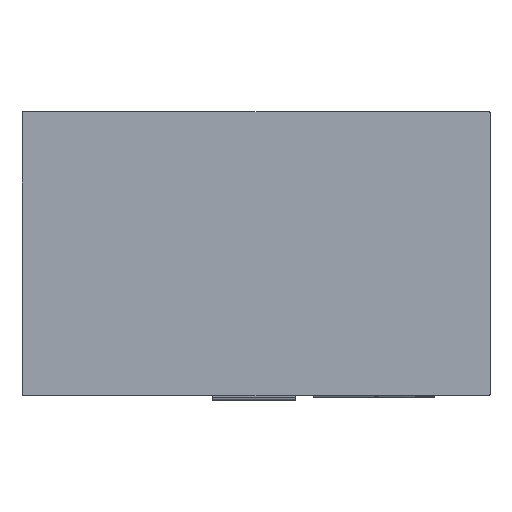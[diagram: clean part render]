
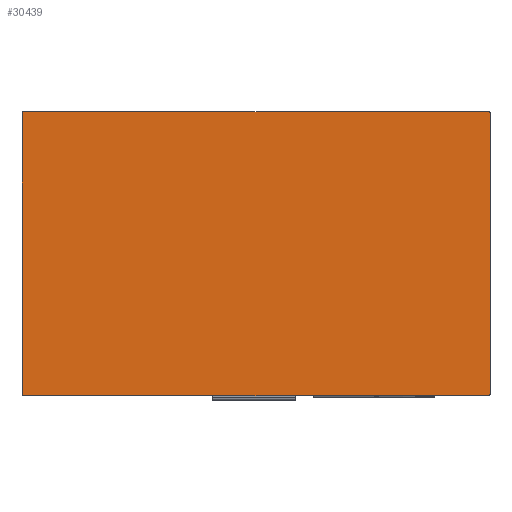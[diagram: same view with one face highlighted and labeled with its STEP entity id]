
A CAD part, top view. The second image highlights one B-rep face of the part: STEP entity #30439.
In plain terms, the highlighted planar face has unit normal (0, 0, 1).
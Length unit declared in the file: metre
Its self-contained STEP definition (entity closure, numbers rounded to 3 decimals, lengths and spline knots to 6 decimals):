
#30439=ADVANCED_FACE('0:4276',(#80250),#80251,.T.);
#30445=EDGE_CURVE('0:4315',#80257,#80260,#80261,.T.);
#30453=EDGE_CURVE('0:4327',#80269,#80272,#80273,.T.);
#30459=EDGE_CURVE('0:4306',#80260,#80280,#80281,.T.);
#30467=EDGE_CURVE('0:4330',#80288,#80269,#80292,.T.);
#30473=EDGE_CURVE('0:4321',#80297,#80300,#80301,.T.);
#30479=EDGE_CURVE('0:4324',#80272,#80297,#80308,.T.);
#30483=EDGE_CURVE('0:4333',#80280,#80288,#80312,.T.);
#30487=EDGE_CURVE('0:4318',#80300,#80257,#80316,.T.);
#80250=FACE_OUTER_BOUND('',#147179,.T.);
#80251=PLANE('',#147180);
#80257=VERTEX_POINT('',#147187);
#80260=VERTEX_POINT('',#147192);
#80261=LINE('',#147193,#147194);
#80269=VERTEX_POINT('',#147207);
#80272=VERTEX_POINT('',#147212);
#80273=LINE('',#147213,#147214);
#80280=VERTEX_POINT('',#147226);
#80281=CIRCLE('',#147227,0.0003);
#80288=VERTEX_POINT('',#147238);
#80292=CIRCLE('',#147244,0.0003);
#80297=VERTEX_POINT('',#147251);
#80300=VERTEX_POINT('',#147256);
#80301=LINE('',#147257,#147258);
#80308=CIRCLE('',#147270,0.0003);
#80312=LINE('',#147276,#147277);
#80316=CIRCLE('',#147284,0.0003);
#147179=EDGE_LOOP('',(#243931,#243932,#243933,#243934,#243935,#243936,#243937,#243938));
#147180=AXIS2_PLACEMENT_3D('',#243939,#243940,#243941);
#147187=CARTESIAN_POINT('',(0.0825,0.04973,0.00715));
#147192=CARTESIAN_POINT('',(0.0825,-0.04967,0.00715));
#147193=CARTESIAN_POINT('',(0.0825,0.04973,0.00715));
#147194=VECTOR('',#243955,1.0);
#147207=CARTESIAN_POINT('',(-0.0825,-0.04967,0.00715));
#147212=CARTESIAN_POINT('',(-0.0825,0.04973,0.00715));
#147213=CARTESIAN_POINT('',(-0.0825,-0.04967,0.00715));
#147214=VECTOR('',#243959,1.0);
#147226=CARTESIAN_POINT('',(0.0822,-0.04997,0.00715));
#147227=AXIS2_PLACEMENT_3D('',#243962,#243963,#243964);
#147238=CARTESIAN_POINT('',(-0.0822,-0.04997,0.00715));
#147244=AXIS2_PLACEMENT_3D('',#243970,#243971,#243972);
#147251=CARTESIAN_POINT('',(-0.0822,0.05003,0.00715));
#147256=CARTESIAN_POINT('',(0.0822,0.05003,0.00715));
#147257=CARTESIAN_POINT('',(-0.0822,0.05003,0.00715));
#147258=VECTOR('',#243977,1.0);
#147270=AXIS2_PLACEMENT_3D('',#243980,#243981,#243982);
#147276=CARTESIAN_POINT('',(0.0822,-0.04997,0.00715));
#147277=VECTOR('',#243986,1.0);
#147284=AXIS2_PLACEMENT_3D('',#243988,#243989,#243990);
#243931=ORIENTED_EDGE('',*,*,#30459,.F.);
#243932=ORIENTED_EDGE('',*,*,#30445,.F.);
#243933=ORIENTED_EDGE('',*,*,#30487,.F.);
#243934=ORIENTED_EDGE('',*,*,#30473,.F.);
#243935=ORIENTED_EDGE('',*,*,#30479,.F.);
#243936=ORIENTED_EDGE('',*,*,#30453,.F.);
#243937=ORIENTED_EDGE('',*,*,#30467,.F.);
#243938=ORIENTED_EDGE('',*,*,#30483,.F.);
#243939=CARTESIAN_POINT('',(0.0,0.0,0.00715));
#243940=DIRECTION('',(0.0,0.0,1.0));
#243941=DIRECTION('',(1.0,0.0,0.0));
#243955=DIRECTION('',(0.0,-1.0,0.0));
#243959=DIRECTION('',(0.0,1.0,0.0));
#243962=CARTESIAN_POINT('',(0.0822,-0.04967,0.00715));
#243963=DIRECTION('',(0.0,0.0,-1.0));
#243964=DIRECTION('',(1.0,0.,0.0));
#243970=CARTESIAN_POINT('',(-0.0822,-0.04967,0.00715));
#243971=DIRECTION('',(-0.0,0.0,-1.0));
#243972=DIRECTION('',(0.,-1.0,0.0));
#243977=DIRECTION('',(1.0,0.0,0.0));
#243980=CARTESIAN_POINT('',(-0.0822,0.04973,0.00715));
#243981=DIRECTION('',(0.0,0.0,-1.0));
#243982=DIRECTION('',(-1.0,0.,0.0));
#243986=DIRECTION('',(-1.0,0.0,0.0));
#243988=CARTESIAN_POINT('',(0.0822,0.04973,0.00715));
#243989=DIRECTION('',(0.0,0.0,-1.0));
#243990=DIRECTION('',(0.,1.0,0.0));
